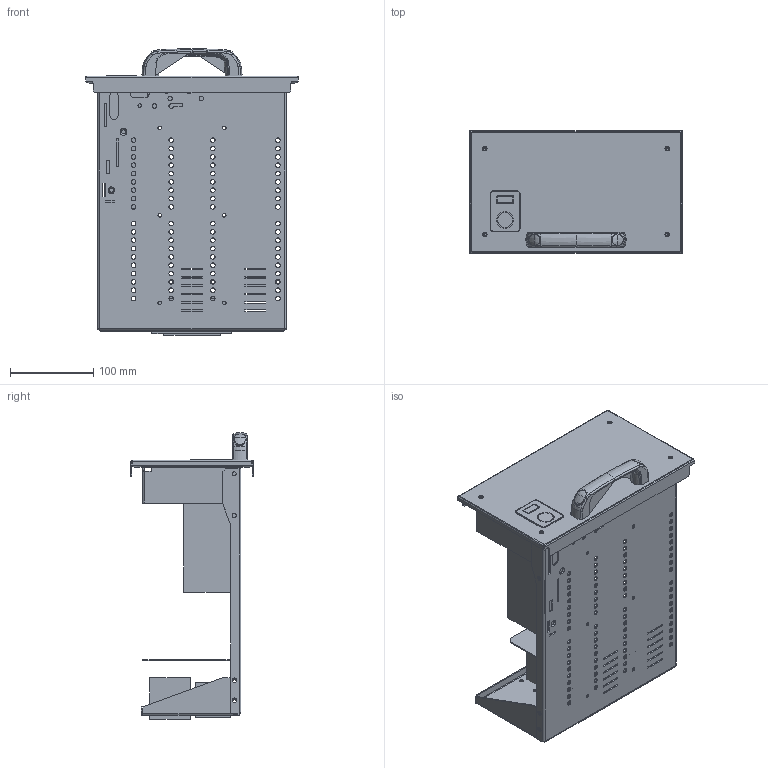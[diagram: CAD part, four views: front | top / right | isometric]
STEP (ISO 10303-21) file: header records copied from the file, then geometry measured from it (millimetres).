
FILE_DESCRIPTION(('CAx-IF Rec.Pracs.---Model Styling and Organization---1.2---2011-12-15','CAx-IF Rec.Pracs.---Geometric and Assembly Validation Properties---4.1---2014-06-16','CAx-IF Rec.Pracs.---PMI Polyline Presentation---2.0---2013-05-24'),'2;1');
FILE_NAME('3М2.stp','2021-05-05T11:46:39+03:00',(''),(''),'STEP Interface 4.4 by CT CoreTechnologie','3D_Evolution4.4 by CT CoreTechnologie','');
FILE_SCHEMA(('AUTOMOTIVE_DESIGN { 1 0 10303 214 1 1 1 1 }'));
Length unit declared in the file: millimetre
Products named in the file (24): 3Ì2; âòû÷íûå; ïîëâèí÷àòûé âòîðè÷íûå; êíîïêà; áëîêèðîâêà ìåõàíèçì; RB.1215.00.00.0 ÑÁ_-02; RB.1215.02.00.0 ÑÁ_-02; RB.1215.02.01.0_-01_1; RB.1215.00.01.0_-04; RB.1215.01.00.0 ÑÁ_-04; RB.1215.01.01.0_-04; RB.1503.00.02.0_-00; RB.1503.00.03.0_123; RB.1503.00.04.0_123; PF 7x14 RAMmcc 2.0_1x2; AC00C061_AC00C061; Ì6õ12-A5100231_straight; 4.444.001; PR.DT477.100.02; PR.DT477.100.01; M5x16 GOST 17475-80 (DIN 965)_straight; RB.1200.00.00.0_-04; R5M2W...M...BR..._R5M2W3M2BR70; RB.1353.00.00.0_-07
Assembly tree (24 placements, depth 4):
  3Ì2
    âòû÷íûå
    ïîëâèí÷àòûé âòîðè÷íûå
    êíîïêà
    áëîêèðîâêà ìåõàíèçì
    RB.1215.00.00.0 ÑÁ_-02
      RB.1215.02.00.0 ÑÁ_-02
        RB.1215.02.01.0_-01_1
      RB.1215.00.01.0_-04
      RB.1215.01.00.0 ÑÁ_-04
        RB.1215.01.01.0_-04
        RB.1503.00.02.0_-00
        RB.1503.00.03.0_123
        RB.1503.00.04.0_123
        PF 7x14 RAMmcc 2.0_1x2
        AC00C061_AC00C061
        Ì6õ12-A5100231_straight
    4.444.001
      PR.DT477.100.02  x2
      PR.DT477.100.01
    M5x16 GOST 17475-80 (DIN 965)_straight
    RB.1200.00.00.0_-04
    R5M2W...M...BR..._R5M2W3M2BR70
      RB.1353.00.00.0_-07
Bounding box: 255.5 x 147 x 344.14 mm (x, y, z)
Surface area: 569384.2 mm2 (no closed solid volume)
Topology: 0 solids, 25 shells, 2026 faces, 5335 edges, 3339 vertices
Faces by surface type: plane 733, bspline 699, cylinder 594
Entity records: 96785 total; most frequent: CARTESIAN_POINT 32619, ORIENTED_EDGE 10148, DIRECTION 9626, EDGE_CURVE 5074, AXIS2_PLACEMENT_3D 3507, VERTEX_POINT 3202, VECTOR 2612, LINE 2612
